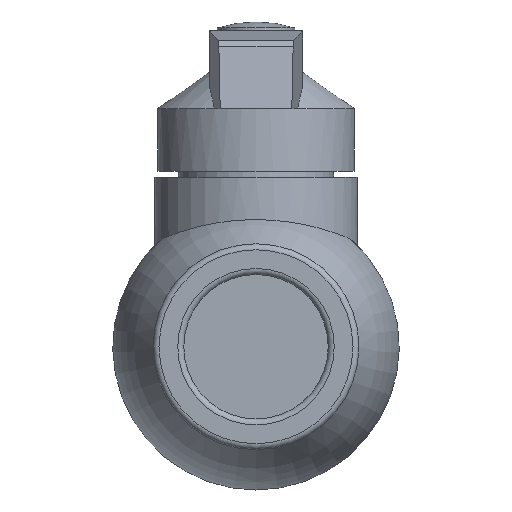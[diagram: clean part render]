
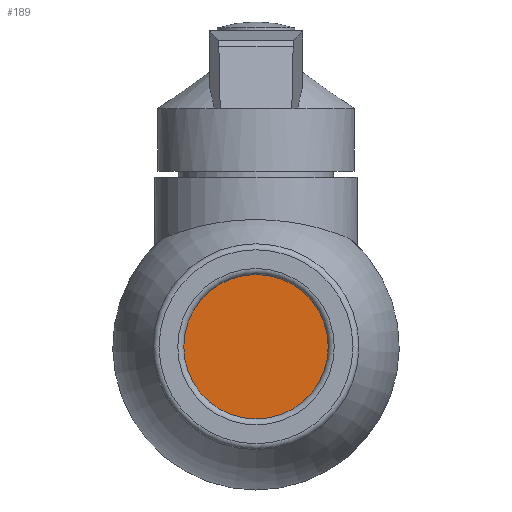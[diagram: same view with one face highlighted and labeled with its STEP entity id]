
A CAD part, front view. The second image highlights one B-rep face of the part: STEP entity #189.
In plain terms, the highlighted planar face has unit normal (0, -1, 0).
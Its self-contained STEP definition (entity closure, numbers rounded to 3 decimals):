
#189=ADVANCED_FACE('',(#1209),#1211,.T.);
#1209=FACE_BOUND('',#1210,.T.);
#1210=EDGE_LOOP('',(#1867));
#1211=PLANE('',#1212);
#1212=AXIS2_PLACEMENT_3D('',#1213,#1214,#1215);
#1213=CARTESIAN_POINT('',(0.,-22.25,0.));
#1214=DIRECTION('',(0.,-1.,0.));
#1215=DIRECTION('',(0.,0.,-1.));
#1867=ORIENTED_EDGE('',*,*,#2190,.T.);
#2190=EDGE_CURVE('',#2731,#2731,#2732,.T.);
#2731=VERTEX_POINT('',#4489);
#2732=CIRCLE('',#4490,12.1);
#4489=CARTESIAN_POINT('',(0.,-22.25,-12.1));
#4490=AXIS2_PLACEMENT_3D('',#4491,#4492,#4493);
#4491=CARTESIAN_POINT('',(0.,-22.25,0.));
#4492=DIRECTION('',(0.,-1.,0.));
#4493=DIRECTION('',(0.,0.,-1.));
